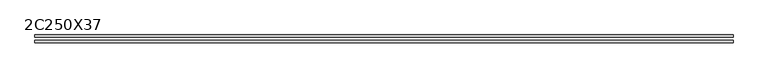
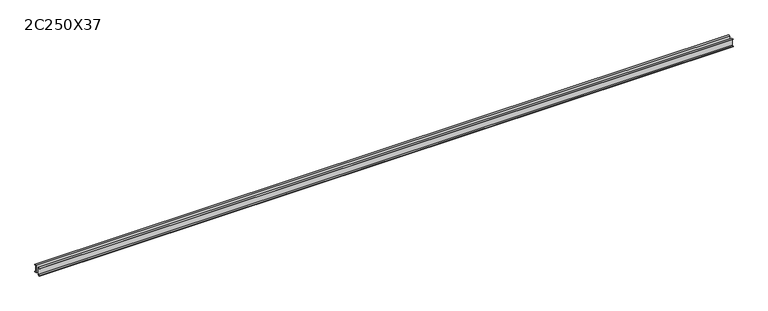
"""IFC4 building model written with IfcOpenShell, lengths in millimetres: beam geometry, Profilato a doppia C : 2C250X37."""

from ifc_helpers import new_model, si_unit, point, frame, frame_2d, origin, place, context, project, spatial, polyline, circle_curve, trimmed, segment, composite_curve, outline, extrude, source, transform, mapped, element, save


def beam_2c250x37_3421135d(model_context):
    return source(origin(), model_context, "Body", "SweptSolid", [
        extrude(outline(composite_curve([segment(polyline([(50.0, 127.0), (123.3, 127.0)]), True, "CONTINUOUS"), segment(trimmed(circle_curve(frame_2d((112.2, 127.0)), 11.1), [point((123.3, 127.0))], [point((112.2, 115.9))], False, "CARTESIAN"), True, "CONTINUOUS"), segment(polyline([(112.2, 115.9), (63.4, 108.1708393), (63.4, -108.1708393), (112.2, -115.9)]), True, "CONTINUOUS"), segment(trimmed(circle_curve(frame_2d((112.2, -127.0)), 11.1), [point((112.2, -115.9))], [point((123.3, -127.0))], False, "CARTESIAN"), True, "CONTINUOUS"), segment(polyline([(123.3, -127.0), (50.0, -127.0), (50.0, 127.0)]), True, "CONTINUOUS")], self_intersect=False)), frame((-11142.5, 0.0, 0.0), z_axis=(1.0, 0.0, 0.0), x_axis=(0.0, 1.0, 0.0)), (0.0, 0.0, 1.0), 22272.0),
        extrude(outline(composite_curve([segment(polyline([(-50.0, 127.0), (-50.0, -127.0), (-123.3, -127.0)]), True, "CONTINUOUS"), segment(trimmed(circle_curve(frame_2d((-112.2, -127.0)), 11.1), [point((-123.3, -127.0))], [point((-112.2, -115.9))], False, "CARTESIAN"), True, "CONTINUOUS"), segment(polyline([(-112.2, -115.9), (-63.4, -108.1708393), (-63.4, 108.1708393), (-112.2, 115.9)]), True, "CONTINUOUS"), segment(trimmed(circle_curve(frame_2d((-112.2, 127.0)), 11.1), [point((-112.2, 115.9))], [point((-123.3, 127.0))], False, "CARTESIAN"), True, "CONTINUOUS"), segment(polyline([(-123.3, 127.0), (-50.0, 127.0)]), True, "CONTINUOUS")], self_intersect=False)), frame((-11142.5, 0.0, 0.0), z_axis=(1.0, 0.0, 0.0), x_axis=(0.0, 1.0, 0.0)), (0.0, 0.0, 1.0), 22272.0),
    ])


if __name__ == "__main__":
    model = new_model("IFC4")
    model_context = context("Model", 3, world=origin())
    ifc_project = project(units=[si_unit("LENGTHUNIT", "METRE", prefix="MILLI")], contexts=[model_context])
    site = spatial("IfcSite", under=ifc_project)
    building = spatial("IfcBuilding", under=site)
    placement = place(None, origin())
    beam_2c250x37_shape = beam_2c250x37_3421135d(model_context)
    element("IfcBeam", 1, ObjectType="Profilato a doppia C : 2C250X37", at=placement, inside=building, context=model_context, shape_type="MappedRepresentation", body=[
        mapped(beam_2c250x37_shape, transform((0.0, 0.0, 0.0), x_axis=(1.0, 0.0, 0.0), y_axis=(0.0, 1.0, 0.0), z_axis=(0.0, 0.0, 1.0))),
    ])
    save(model, "model.ifc")
